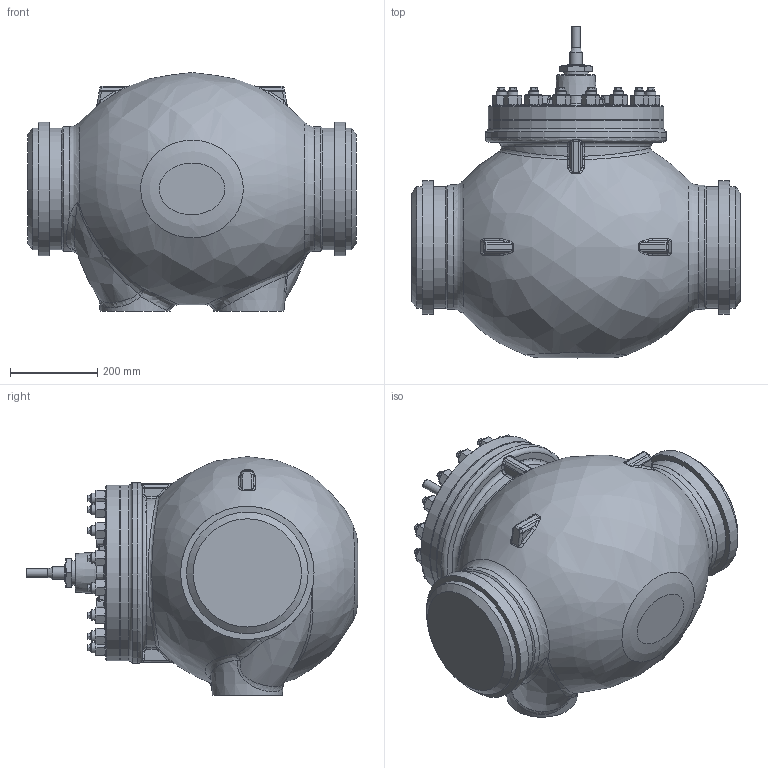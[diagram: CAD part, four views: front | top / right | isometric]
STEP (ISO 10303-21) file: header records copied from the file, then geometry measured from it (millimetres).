
FILE_DESCRIPTION(/* description */ (''),/* implementation_level */ '2;1');
FILE_NAME(/* name */ 'RV3xx_DN250_SP_privarovaci.stp',/* time_stamp */ '2014-09-25T06:17:41+02:00',/* author */ (''),/* organization */ ('LDM'),/* preprocessor_version */ 'ST-DEVELOPER v11',/* originating_system */ 'SIEMENS PLM Software NX 7.0',/* authorisation */ '');
FILE_SCHEMA (('CONFIG_CONTROL_DESIGN'));
Length unit declared in the file: millimetre
Products named in the file (1): adam1C36fvj2
Bounding box: 752 x 759 x 546 mm (x, y, z)
Volume: 118010980.2 mm3; surface area: 1772658.6 mm2
Topology: 1 solids, 17 shells, 1315 faces, 3120 edges, 1898 vertices
Faces by surface type: plane 456, cone 416, cylinder 186, bspline 144, torus 60, extrusion 41, sphere 12
Full cylindrical faces by diameter (mm): 14.376 x2, 17.97 x4, 18.5 x16, 20 x1, 21.797 x16, 24 x32, 26 x16, 28 x1, 36 x32, 39 x1, 56 x1, 278 x4, 285 x2, 298 x1, 305 x2, 402 x2, 414 x1
Entity records: 40419 total; most frequent: CARTESIAN_POINT 15033, ORIENTED_EDGE 5174, DIRECTION 4615, EDGE_CURVE 2587, AXIS2_PLACEMENT_3D 2012, EDGE_LOOP 1714, VERTEX_POINT 1699, ADVANCED_FACE 1313
